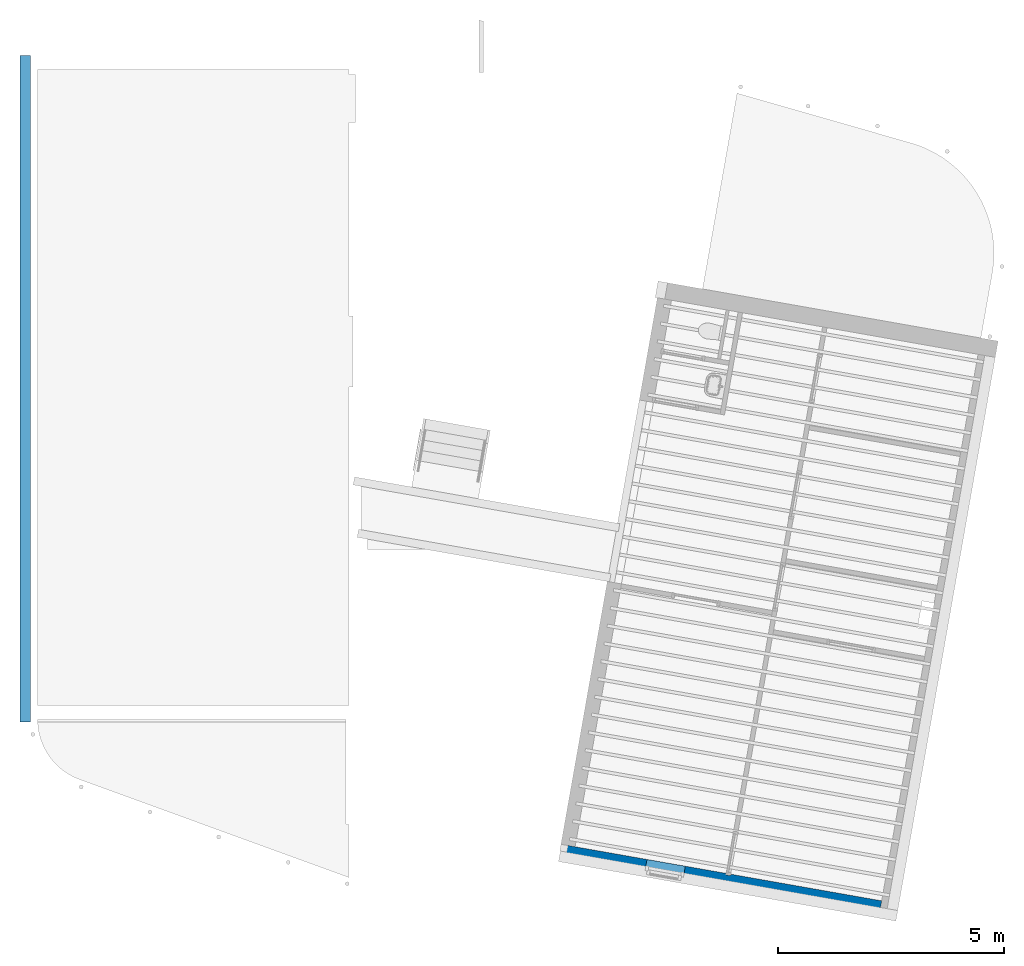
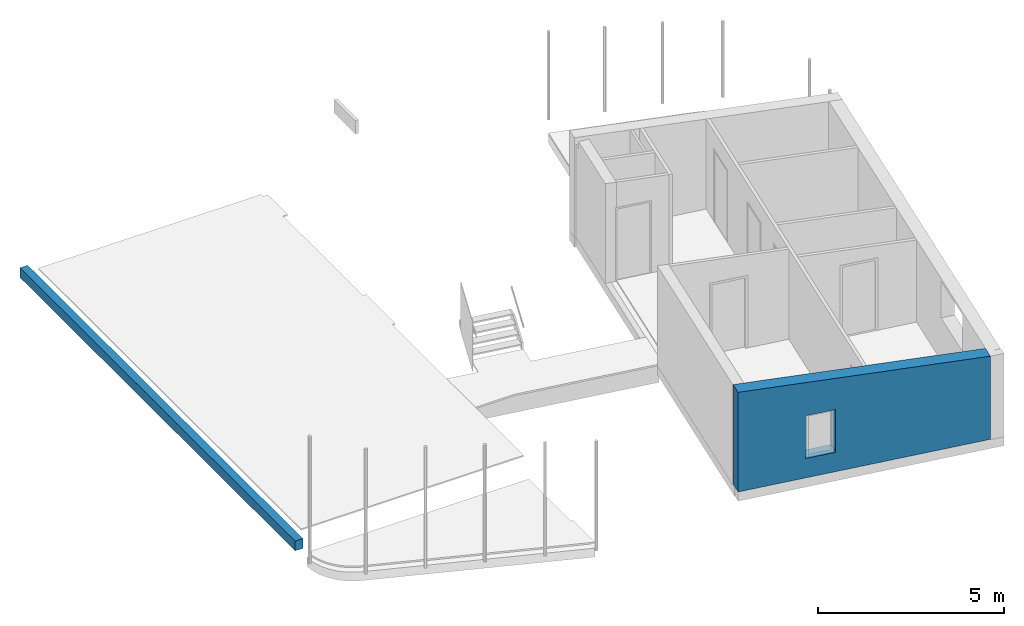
# One storey, part 5 of 7: 2 walls.
"""IFC2X3 building model written with IfcOpenShell, lengths in millimetres."""

from ifc_helpers import new_model, entity, si_unit, converted_unit, derived_unit, direction, frame, origin, place, context, subcontext, project, spatial, faceted_brep, material, layer, layer_set, type_object, element, save


model = new_model("IFC2X3")

# Units and contexts
model_context = context("Model", 3, precision=0.01, world=origin(), true_north=direction((6.12303176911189e-17, 1.0)))
body_context = subcontext(model_context, "Body", "Model", "MODEL_VIEW")
ifc_project = project(units=[si_unit("LENGTHUNIT", "METRE", prefix="MILLI"), si_unit("AREAUNIT", "SQUARE_METRE"), si_unit("VOLUMEUNIT", "CUBIC_METRE"), converted_unit("PLANEANGLEUNIT", "DEGREE", entity("IfcRatioMeasure", 0.0174532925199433), si_unit("PLANEANGLEUNIT", "RADIAN"), dimensions=[0, 0, 0, 0, 0, 0, 0]), si_unit("MASSUNIT", "GRAM", prefix="KILO"), derived_unit("MASSDENSITYUNIT", [(si_unit("MASSUNIT", "GRAM", prefix="KILO"), 1), (si_unit("LENGTHUNIT", "METRE"), -3)]), derived_unit("MOMENTOFINERTIAUNIT", [(si_unit("LENGTHUNIT", "METRE"), 4)]), si_unit("TIMEUNIT", "SECOND"), si_unit("FREQUENCYUNIT", "HERTZ"), si_unit("THERMODYNAMICTEMPERATUREUNIT", "DEGREE_CELSIUS"), derived_unit("THERMALTRANSMITTANCEUNIT", [(si_unit("MASSUNIT", "GRAM", prefix="KILO"), 1), (si_unit("THERMODYNAMICTEMPERATUREUNIT", "KELVIN"), -1), (si_unit("TIMEUNIT", "SECOND"), -3)]), derived_unit("VOLUMETRICFLOWRATEUNIT", [(si_unit("LENGTHUNIT", "METRE"), 3), (si_unit("TIMEUNIT", "SECOND"), -1)]), si_unit("ELECTRICCURRENTUNIT", "AMPERE"), si_unit("ELECTRICVOLTAGEUNIT", "VOLT"), si_unit("POWERUNIT", "WATT"), si_unit("FORCEUNIT", "NEWTON", prefix="KILO"), si_unit("ILLUMINANCEUNIT", "LUX"), si_unit("LUMINOUSFLUXUNIT", "LUMEN"), si_unit("LUMINOUSINTENSITYUNIT", "CANDELA"), derived_unit("USERDEFINED", [(si_unit("MASSUNIT", "GRAM", prefix="KILO"), -1), (si_unit("LENGTHUNIT", "METRE"), -2), (si_unit("TIMEUNIT", "SECOND"), 3), (si_unit("LUMINOUSFLUXUNIT", "LUMEN"), 1)]), derived_unit("LINEARVELOCITYUNIT", [(si_unit("LENGTHUNIT", "METRE"), 1), (si_unit("TIMEUNIT", "SECOND"), -1)]), si_unit("PRESSUREUNIT", "PASCAL"), derived_unit("USERDEFINED", [(si_unit("LENGTHUNIT", "METRE"), -2), (si_unit("MASSUNIT", "GRAM", prefix="KILO"), 1), (si_unit("TIMEUNIT", "SECOND"), -2)]), derived_unit("LINEARFORCEUNIT", [(si_unit("MASSUNIT", "GRAM", prefix="KILO"), 1), (si_unit("LENGTHUNIT", "METRE"), 1), (si_unit("TIMEUNIT", "SECOND"), -2), (si_unit("LENGTHUNIT", "METRE"), -1)]), derived_unit("PLANARFORCEUNIT", [(si_unit("MASSUNIT", "GRAM", prefix="KILO"), 1), (si_unit("LENGTHUNIT", "METRE"), 1), (si_unit("TIMEUNIT", "SECOND"), -2), (si_unit("LENGTHUNIT", "METRE"), -2)])], contexts=[model_context])

# Site, building, storey
site_placement = place(None, origin())
site = spatial("IfcSite", under=ifc_project, at=site_placement, Name="<Kadaster Gemeente>;<Kadaster nummer>;<Kadaster sectie>", CompositionType="ELEMENT")
building_placement = place(site_placement, origin())
building = spatial("IfcBuilding", under=site, at=building_placement, Name="JRCZ Middelburg", CompositionType="ELEMENT")
storey_placement = place(building_placement, frame((0.0, 0.0, 3000.0)))
storey = spatial("IfcBuildingStorey", under=building, at=storey_placement, Name="01 eerste verdieping", CompositionType="ELEMENT", Elevation=3000.0)

# Walls
ifc_material_1 = material(Name="Gevelafwerking")
ifc_layer_1 = layer(ifc_material_1, 30.0)
ifc_material_2 = material(Name="ISR_Luchtspouw")
ifc_layer_2 = layer(ifc_material_2, 35.0)
ifc_layer_3 = layer(ifc_material_2, 35.0)
ifc_material_3 = material(Name="RBM_n7_isolatie_hsb_270")
ifc_layer_4 = layer(ifc_material_3, 270.0)
ifc_material_4 = material(Name="RBM_i4_multiplex_beplating")
ifc_layer_5 = layer(ifc_material_4, 18.0)
ifc_layer_set_1 = layer_set([ifc_layer_1, ifc_layer_2, ifc_layer_3, ifc_layer_4, ifc_layer_5], Name="Basic Wall:21_RBM_WA_hsb_270mm_houten bekleding")
wall_type_1 = type_object("IfcWallType", Name="Basic Wall:21_RBM_WA_hsb_270mm_houten bekleding", PredefinedType="STANDARD", material=ifc_layer_set_1)
wall_1_placement = place(storey_placement, frame((28826.6897092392, 5632.73196699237, -35.0), z_axis=(0.0, 0.0, 1.0), x_axis=(-0.984807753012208, 0.173648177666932, 0.0)))
element("IfcWall", 1, at=wall_1_placement, inside=storey, type_object=wall_type_1, Name="Basic Wall:21_RBM_WA_hsb_270mm_houten bekleding", ObjectType="Basic Wall:21_RBM_WA_hsb_270mm_houten bekleding", context=body_context, shape_type="Brep", body=[
    faceted_brep([(0.0, -194.0, 2725.35126207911), (0.0, -194.0, 0.0), (3400.0, -194.0, 0.0), (3500.0, -194.0, 0.0), (7206.0, -194.0, 0.0), (7206.0, -194.0, 3265.80126207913), (6900.0, -194.0, 3242.85126207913), (3500.0, -194.0, 2987.85126207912), (3400.0, -194.0, 2980.35126207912), (3400.0, -194.0, 35.0), (3400.0, -194.0, 2412.0), (3500.0, -194.0, 2412.0), (3500.0, -194.0, 35.0), (4418.49999999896, -194.0, 635.0), (4418.49999999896, -194.0, 2035.0), (4462.49999999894, -194.0, 2035.0), (5237.49999999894, -194.0, 2035.0), (5281.49999999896, -194.0, 2035.0), (5281.49999999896, -194.0, 635.0), (5237.49999999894, -194.0, 635.0), (4462.49999999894, -194.0, 635.0), (0.0, 194.0, 0.0), (0.0, 194.0, 2725.0), (0.0, 194.0, 2725.35126207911), (7206.0, 194.0, 3265.80126207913), (7206.0, 194.0, 0.0), (4418.49999999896, 194.0, 2035.0), (4418.49999999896, 194.0, 635.0), (4462.49999999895, 194.0, 635.0), (5237.49999999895, 194.0, 635.0), (5281.49999999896, 194.0, 635.0), (5281.49999999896, 194.0, 2035.0), (5237.49999999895, 194.0, 2035.0), (4462.49999999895, 194.0, 2035.0), (0.0, -44.0, 2725.35126207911), (0.0, -44.0, 0.0), (3400.0, -160.0, 35.0), (3400.0, -160.0, 2412.0), (3500.0, -160.0, 2412.0), (3500.0, -160.0, 35.0), (7206.0, -44.0, 0.0), (7206.0, -44.0, 3265.80126207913)], [[[0, 1, 2, 3, 4, 5, 6, 7, 8], [9, 10, 11, 12], [13, 14, 15, 16, 17, 18, 19, 20]], [[21, 22, 23, 24, 25], [26, 27, 28, 29, 30, 31, 32, 33]], [[1, 0, 34, 23, 22, 21, 35]], [[36, 37, 10, 9]], [[38, 39, 12, 11]], [[37, 38, 11, 10]], [[37, 36, 39, 38]], [[39, 36, 9, 12]], [[13, 27, 26, 14]], [[14, 26, 33, 32, 31, 17, 16, 15]], [[17, 31, 30, 18]], [[27, 13, 20, 19, 18, 30, 29, 28]], [[1, 35, 21, 25, 40, 4, 3, 2]], [[23, 34, 0, 8, 7, 6, 5, 41, 24]], [[5, 4, 40, 25, 24, 41]]]),
])
ifc_layer_6 = layer(ifc_material_1, 30.0)
ifc_layer_7 = layer(ifc_material_2, 35.0)
ifc_layer_8 = layer(ifc_material_2, 35.0)
ifc_material_5 = material(Name="RBM_n7_isolatie_hsb_invulling")
ifc_layer_9 = layer(ifc_material_5, 138.0)
ifc_layer_set_2 = layer_set([ifc_layer_6, ifc_layer_7, ifc_layer_8, ifc_layer_9], Name="Basic Wall:21_RBM_WA_passtrook_BU_houten bekleding")
wall_type_2 = type_object("IfcWallType", Name="Basic Wall:21_RBM_WA_passtrook_BU_houten bekleding", PredefinedType="STANDARD", material=ifc_layer_set_2)
wall_2_placement = place(storey_placement, frame((9881.0, 9790.0, 335.0), z_axis=(0.0, 0.0, 1.0), x_axis=(0.0, 1.0, 0.0)))
element("IfcWall", 2, at=wall_2_placement, inside=storey, type_object=wall_type_2, Name="Basic Wall:21_RBM_WA_passtrook_BU_houten bekleding", ObjectType="Basic Wall:21_RBM_WA_passtrook_BU_houten bekleding", context=body_context, shape_type="Brep", body=[
    faceted_brep([(14760.0, -119.0, 320.0), (0.0, -119.0, 320.0), (0.0, -119.0, 0.0), (14760.0, -119.0, 0.0), (14772.5, -119.0, 0.0), (14772.5, -119.0, 320.0), (14772.5, 119.0, 320.0), (14772.5, 119.0, 0.0), (14760.0, 119.0, 0.0), (0.0, 119.0, 0.0), (0.0, 119.0, 320.0), (14760.0, 119.0, 320.0), (0.0, 18.033331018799, 0.0), (5.50246977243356, 18.2099905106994, 0.0), (11.0054796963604, 18.3689368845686, 0.0), (8.27921497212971, 118.331767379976, 0.0), (4.13946750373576, 118.214125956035, 0.0), (0.0, 118.087014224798, 0.0), (0.0, 118.087014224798, 46.4258384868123), (0.0, 118.087014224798, 82.4999999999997), (0.0, 118.087014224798, 118.574161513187), (0.0, 118.087014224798, 165.0), (0.0, 18.033331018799, 165.0), (0.0, 18.033331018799, 119.874663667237), (0.0, 18.033331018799, 82.5000000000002), (0.0, 18.033331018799, 45.125336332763), (4.13928680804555, 118.214120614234, 165.0), (8.27921497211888, 118.331767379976, 165.0), (11.0054796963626, 18.3689368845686, 165.0), (5.50213315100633, 18.2099802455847, 165.0), (4.13946750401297, 118.214125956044, 42.2477259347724), (4.13946750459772, 118.214125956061, 105.712919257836), (4.52920716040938, 118.225605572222, 71.8805934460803), (3.49290146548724, 118.194896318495, 135.356359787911), (8.27921497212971, 118.331767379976, 118.57416151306), (8.27921497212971, 118.331767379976, 46.4258384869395), (8.27921497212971, 118.331767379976, 92.8516769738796), (5.50246977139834, 18.209990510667, 105.529129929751), (5.50246977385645, 18.2099905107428, 63.8126681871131), (11.0054796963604, 18.3689368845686, 119.874663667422), (11.0054796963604, 18.3689368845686, 90.2506726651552), (11.0054796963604, 18.3689368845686, 45.1253363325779)], [[[0, 1, 2, 3, 4, 5]], [[6, 7, 8, 9, 10, 11]], [[2, 12, 13, 14, 15, 16, 17, 9, 8, 7, 4, 3]], [[5, 4, 7, 6]], [[0, 5, 6, 11, 10, 1]], [[1, 10, 9, 17, 18, 19, 20, 21, 22, 23, 24, 25, 12, 2]], [[26, 27, 28, 29, 22, 21]], [[30, 18, 17, 16]], [[31, 20, 19]], [[19, 32, 31]], [[33, 34, 27]], [[30, 32, 18]], [[30, 16, 15, 35]], [[36, 34, 31]], [[34, 33, 31]], [[21, 33, 26]], [[18, 32, 19]], [[32, 36, 31]], [[20, 31, 33]], [[32, 35, 36]], [[30, 35, 32]], [[20, 33, 21]], [[27, 26, 33]], [[24, 23, 37, 38, 13, 12, 25]], [[29, 28, 39]], [[38, 37, 39, 40, 41, 14, 13]], [[23, 22, 29]], [[39, 37, 29]], [[29, 37, 23]], [[28, 27, 34, 36, 35, 15, 14, 41, 40, 39]]]),
])

save(model, "model.ifc")
